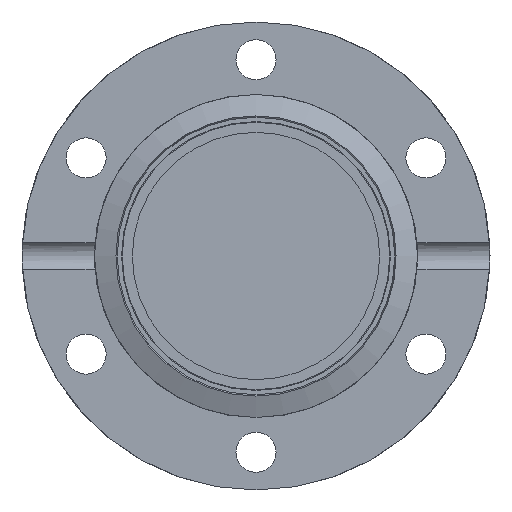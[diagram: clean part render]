
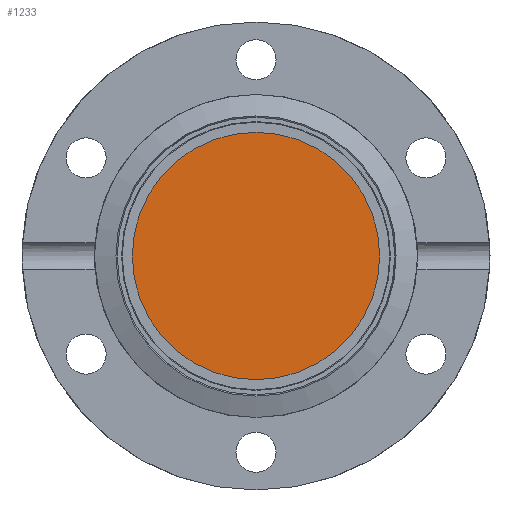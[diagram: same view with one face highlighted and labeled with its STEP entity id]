
A CAD part, left-side view. The second image highlights one B-rep face of the part: STEP entity #1233.
In plain terms, the highlighted planar face has unit normal (-1, 0, 0).
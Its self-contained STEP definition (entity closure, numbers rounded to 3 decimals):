
#1233 = ADVANCED_FACE( '', ( #2952 ), #2953, .F. );
#2952 = FACE_OUTER_BOUND( '', #5245, .T. );
#2953 = PLANE( '', #5246 );
#5245 = EDGE_LOOP( '', ( #8049 ) );
#5246 = AXIS2_PLACEMENT_3D( '', #8050, #8051, #8052 );
#8049 = ORIENTED_EDGE( '', *, *, #10511, .T. );
#8050 = CARTESIAN_POINT( '', ( 0., 0., 26. ) );
#8051 = DIRECTION( '', ( 1., 0., 0. ) );
#8052 = DIRECTION( '', ( 0., 0., -1. ) );
#10511 = EDGE_CURVE( '', #12040, #12040, #12041, .T. );
#12040 = VERTEX_POINT( '', #13880 );
#12041 = CIRCLE( '', #13881, 26. );
#13880 = CARTESIAN_POINT( '', ( 0., 0., 26. ) );
#13881 = AXIS2_PLACEMENT_3D( '', #15767, #15768, #15769 );
#15767 = CARTESIAN_POINT( '', ( 0., 0., 0. ) );
#15768 = DIRECTION( '', ( -1., 0., 0. ) );
#15769 = DIRECTION( '', ( 0., 0., 1. ) );
